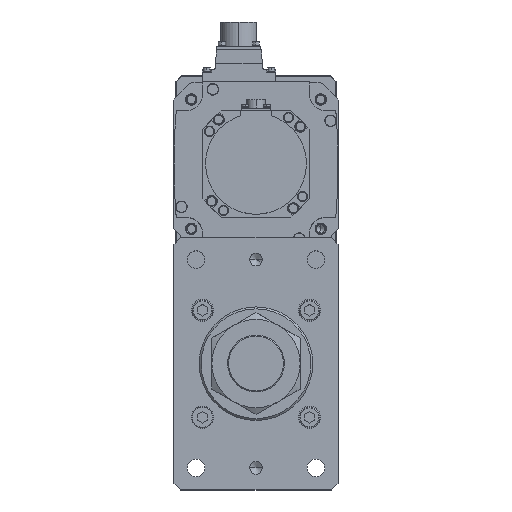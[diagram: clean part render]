
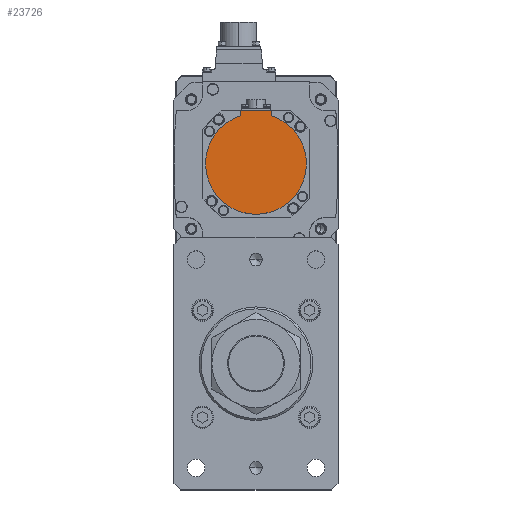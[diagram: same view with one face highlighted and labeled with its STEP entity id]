
A CAD part, top view. The second image highlights one B-rep face of the part: STEP entity #23726.
In plain terms, the highlighted planar face has unit normal (0, 0, 1) as drawn and (0, 0, -1) by its records, which use the part's own axes.
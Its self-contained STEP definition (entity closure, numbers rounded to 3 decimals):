
#629 = ORIENTED_EDGE ( 'NONE', *, *, #32772, .F. ) ;
#2150 = CARTESIAN_POINT ( 'NONE',  ( 40., 0., -146.5 ) ) ;
#2205 = VERTEX_POINT ( 'NONE', #16888 ) ;
#2381 = CARTESIAN_POINT ( 'NONE',  ( 0., 0., -146.5 ) ) ;
#3188 = EDGE_CURVE ( 'NONE', #16012, #2205, #30438, .T. ) ;
#3315 = CARTESIAN_POINT ( 'NONE',  ( 0., 0., -146.5 ) ) ;
#4668 = CARTESIAN_POINT ( 'NONE',  ( -12., -38.158, -146.5 ) ) ;
#5064 = DIRECTION ( 'NONE',  ( 1., 0., 0. ) ) ;
#5347 = DIRECTION ( 'NONE',  ( 0., 1., 0. ) ) ;
#6131 = CIRCLE ( 'NONE', #33571, 40. ) ;
#6794 = CARTESIAN_POINT ( 'NONE',  ( -12., -42.5, -146.5 ) ) ;
#6877 = DIRECTION ( 'NONE',  ( 1., 0., 0. ) ) ;
#7262 = VERTEX_POINT ( 'NONE', #6794 ) ;
#7348 = ORIENTED_EDGE ( 'NONE', *, *, #3188, .F. ) ;
#8556 = CARTESIAN_POINT ( 'NONE',  ( 0., -42.5, -146.5 ) ) ;
#10066 = DIRECTION ( 'NONE',  ( 0., 1., 0. ) ) ;
#10802 = EDGE_CURVE ( 'NONE', #2205, #22823, #14941, .T. ) ;
#11241 = VECTOR ( 'NONE', #5347, 1000. ) ;
#12122 = VERTEX_POINT ( 'NONE', #4668 ) ;
#13365 = AXIS2_PLACEMENT_3D ( 'NONE', #31162, #17868, #31514 ) ;
#14029 = LINE ( 'NONE', #8556, #29038 ) ;
#14359 = FACE_OUTER_BOUND ( 'NONE', #15877, .T. ) ;
#14941 = CIRCLE ( 'NONE', #15764, 40. ) ;
#15764 = AXIS2_PLACEMENT_3D ( 'NONE', #3315, #17000, #32765 ) ;
#15877 = EDGE_LOOP ( 'NONE', ( #17713, #629, #20263, #34594, #7348, #25407 ) ) ;
#16012 = VERTEX_POINT ( 'NONE', #23875 ) ;
#16888 = CARTESIAN_POINT ( 'NONE',  ( 12., -38.158, -146.5 ) ) ;
#17000 = DIRECTION ( 'NONE',  ( 0., 0., 1. ) ) ;
#17713 = ORIENTED_EDGE ( 'NONE', *, *, #23281, .T. ) ;
#17868 = DIRECTION ( 'NONE',  ( 0., 0., 1. ) ) ;
#19082 = DIRECTION ( 'NONE',  ( -1., 0., 0. ) ) ;
#19822 = VECTOR ( 'NONE', #10066, 1000. ) ;
#20263 = ORIENTED_EDGE ( 'NONE', *, *, #20775, .F. ) ;
#20775 = EDGE_CURVE ( 'NONE', #22823, #23995, #26380, .T. ) ;
#22823 = VERTEX_POINT ( 'NONE', #2150 ) ;
#22978 = CARTESIAN_POINT ( 'NONE',  ( 0., -1.249, -146.5 ) ) ;
#23281 = EDGE_CURVE ( 'NONE', #7262, #12122, #34042, .T. ) ;
#23726 = ADVANCED_FACE ( 'NONE', ( #14359 ), #25331, .F. ) ;
#23875 = CARTESIAN_POINT ( 'NONE',  ( 12., -42.5, -146.5 ) ) ;
#23995 = VERTEX_POINT ( 'NONE', #26341 ) ;
#24132 = AXIS2_PLACEMENT_3D ( 'NONE', #22978, #25779, #6877 ) ;
#25331 = PLANE ( 'NONE',  #24132 ) ;
#25407 = ORIENTED_EDGE ( 'NONE', *, *, #29395, .T. ) ;
#25779 = DIRECTION ( 'NONE',  ( 0., 0., 1. ) ) ;
#26341 = CARTESIAN_POINT ( 'NONE',  ( -40., 0., -146.5 ) ) ;
#26380 = CIRCLE ( 'NONE', #13365, 40. ) ;
#28613 = CARTESIAN_POINT ( 'NONE',  ( -12., -40.329, -146.5 ) ) ;
#28745 = DIRECTION ( 'NONE',  ( 0., 0., 1. ) ) ;
#29038 = VECTOR ( 'NONE', #19082, 1000. ) ;
#29395 = EDGE_CURVE ( 'NONE', #16012, #7262, #14029, .T. ) ;
#30438 = LINE ( 'NONE', #31869, #11241 ) ;
#31162 = CARTESIAN_POINT ( 'NONE',  ( 0., 0., -146.5 ) ) ;
#31514 = DIRECTION ( 'NONE',  ( 1., 0., 0. ) ) ;
#31869 = CARTESIAN_POINT ( 'NONE',  ( 12., -1.249, -146.5 ) ) ;
#32765 = DIRECTION ( 'NONE',  ( 1., 0., 0. ) ) ;
#32772 = EDGE_CURVE ( 'NONE', #23995, #12122, #6131, .T. ) ;
#33571 = AXIS2_PLACEMENT_3D ( 'NONE', #2381, #28745, #5064 ) ;
#34042 = LINE ( 'NONE', #28613, #19822 ) ;
#34594 = ORIENTED_EDGE ( 'NONE', *, *, #10802, .F. ) ;
